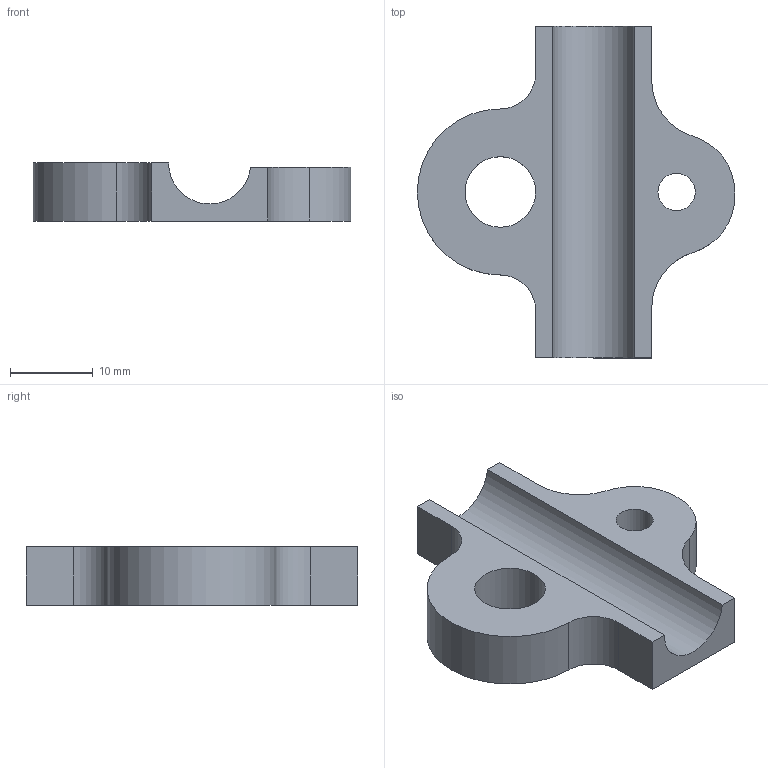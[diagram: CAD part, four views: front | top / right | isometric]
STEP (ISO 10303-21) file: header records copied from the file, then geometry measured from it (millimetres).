
FILE_DESCRIPTION((''),'2;1');
FILE_NAME('D:\Data\Documents\Studium\10.Semester\Studienarbeit\Design\Seitenhalter Unterseite.stp','2016-07-13T10:41:59',('Fabian'),(''),'Autodesk Inventor 2013','Autodesk Inventor 2013','');
FILE_SCHEMA(('AUTOMOTIVE_DESIGN { 1 0 10303 214 1 1 1 1 }'));
Length unit declared in the file: millimetre
Products named in the file (1): Seitenhalter Unterseite
Bounding box: 38.25 x 40 x 7 mm (x, y, z)
Volume: 4399.1 mm3; surface area: 3105.3 mm2
Topology: 1 solids, 1 shells, 27 faces, 94 edges, 89 vertices
Faces by surface type: plane 17, cylinder 10
Full cylindrical faces by diameter (mm): 4.5 x1, 8.5 x1
Entity records: 1128 total; most frequent: CARTESIAN_POINT 190, DIRECTION 174, ORIENTED_EDGE 140, EDGE_CURVE 70, VECTOR 66, LINE 66, AXIS2_PLACEMENT_3D 54, VERTEX_POINT 48
